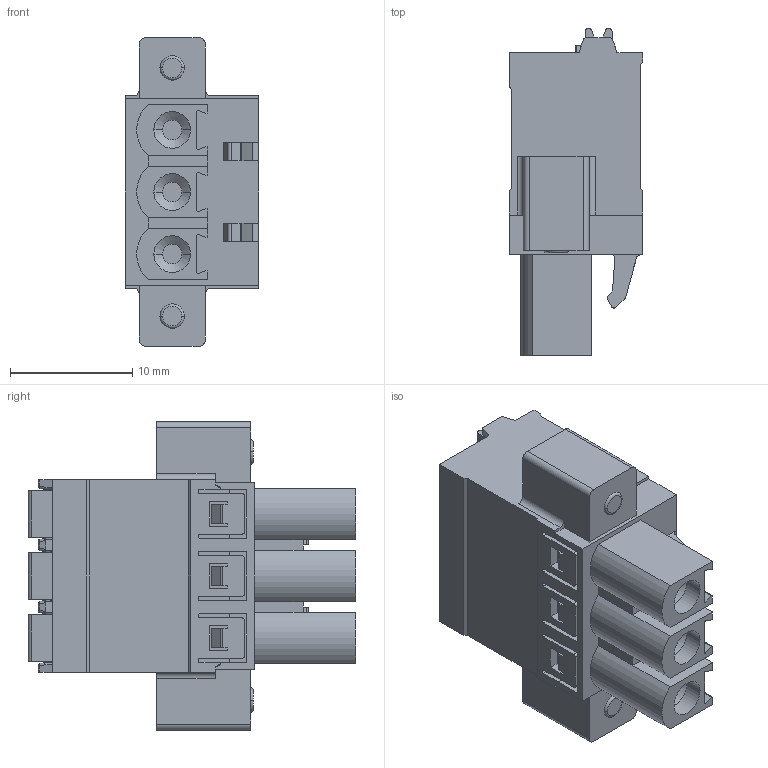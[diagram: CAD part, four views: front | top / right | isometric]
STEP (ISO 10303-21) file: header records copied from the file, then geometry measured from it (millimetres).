
FILE_DESCRIPTION((''),'2;1');
FILE_NAME('333','2019-04-11T',('zhenbing.lai'),(''),'CREO PARAMETRIC BY PTC INC, 2016260','CREO PARAMETRIC BY PTC INC, 2016260','');
FILE_SCHEMA(('CONFIG_CONTROL_DESIGN'));
Length unit declared in the file: millimetre
Products named in the file (1): 333
Bounding box: 10.9 x 26.8 x 25.24 mm (x, y, z)
Volume: 3655.2 mm3; surface area: 2526.8 mm2
Topology: 1 solids, 1 shells, 696 faces, 1899 edges, 1198 vertices
Faces by surface type: plane 351, cylinder 233, torus 38, bspline 36, cone 26, sphere 12
Entity records: 23096 total; most frequent: CARTESIAN_POINT 5620, ORIENTED_EDGE 3774, DIRECTION 3517, EDGE_CURVE 1887, VERTEX_POINT 1198, VECTOR 1189, LINE 1189, AXIS2_PLACEMENT_3D 1164
